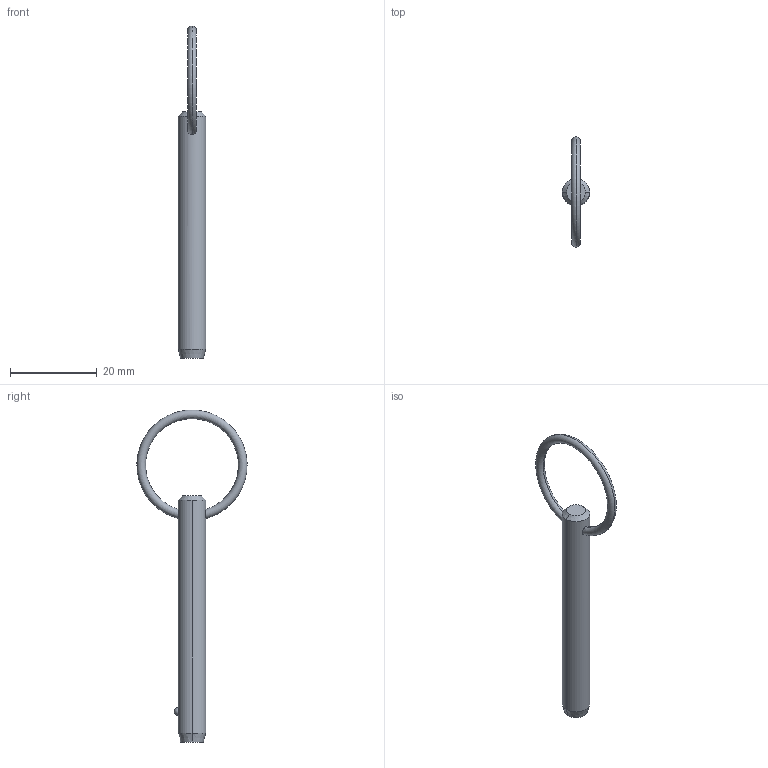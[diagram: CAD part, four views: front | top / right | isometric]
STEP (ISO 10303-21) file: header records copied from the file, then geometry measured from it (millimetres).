
FILE_DESCRIPTION (( 'STEP AP203' ), '1' );
FILE_NAME ('P1250.025-170.step', '2019-07-29T19:41:23', ( '' ), ( '' ), 'SwSTEP 2.0', 'SolidWorks 2017', '' );
FILE_SCHEMA (( 'CONFIG_CONTROL_DESIGN' ));
Length unit declared in the file: millimetre
Products named in the file (1): P1250.025-170
Bounding box: 6.35 x 25.38 x 76.52 mm (x, y, z)
Volume: 1989.3 mm3; surface area: 1588.5 mm2
Topology: 1 solids, 1 shells, 12 faces, 28 edges, 17 vertices
Faces by surface type: cone 4, torus 2, sphere 2, cylinder 2, plane 2
Entity records: 481 total; most frequent: CARTESIAN_POINT 148, DIRECTION 56, ORIENTED_EDGE 48, AXIS2_PLACEMENT_3D 25, EDGE_CURVE 24, VERTEX_POINT 15, EDGE_LOOP 15, FACE_OUTER_BOUND 12
